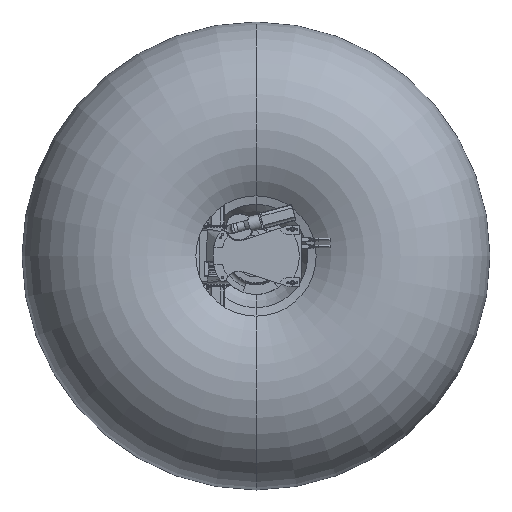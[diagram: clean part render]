
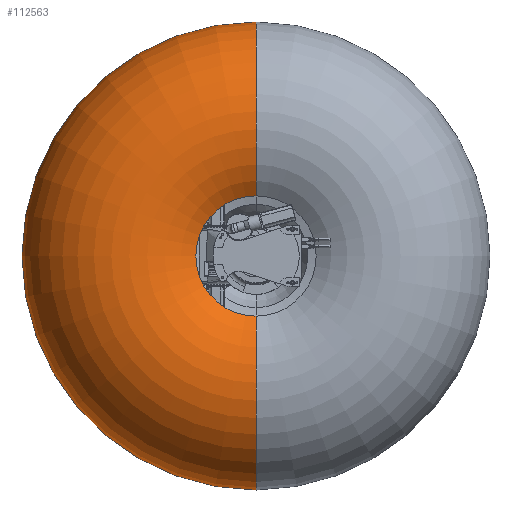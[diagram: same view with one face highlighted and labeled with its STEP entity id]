
A CAD part, front view. The second image highlights one B-rep face of the part: STEP entity #112563.
In plain terms, the highlighted toroidal (fillet/blend) face has major radius 1474.22 mm and minor radius 1230.66 mm.
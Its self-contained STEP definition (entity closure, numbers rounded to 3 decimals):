
#40637 = CARTESIAN_POINT ( 'NONE',  ( 0., 459.142, 695.091 ) ) ;
#40684 = DIRECTION ( 'NONE',  ( 0., 0., 1. ) ) ;
#40685 = DIRECTION ( 'NONE',  ( -1., 0., 0. ) ) ;
#40686 = CARTESIAN_POINT ( 'NONE',  ( 0., 1411.76, -1474.222 ) ) ;
#40687 = AXIS2_PLACEMENT_3D ( 'NONE', #40686, #40685, #40684 ) ;
#40688 = CIRCLE ( 'NONE', #40687, 1230.66 ) ;
#40689 = CARTESIAN_POINT ( 'NONE',  ( 0., 459.142, -695.091 ) ) ;
#40832 = CIRCLE ( 'NONE', #40901, 695.091 ) ;
#40898 = DIRECTION ( 'NONE',  ( 0., 0., -1. ) ) ;
#40899 = DIRECTION ( 'NONE',  ( 0., -1., 0. ) ) ;
#40900 = CARTESIAN_POINT ( 'NONE',  ( 0., 459.142, 0. ) ) ;
#40901 = AXIS2_PLACEMENT_3D ( 'NONE', #40900, #40899, #40898 ) ;
#40948 = DIRECTION ( 'NONE',  ( 0., 0., -1. ) ) ;
#40949 = DIRECTION ( 'NONE',  ( 1., 0., 0. ) ) ;
#40950 = CARTESIAN_POINT ( 'NONE',  ( 0., 1411.76, 1474.222 ) ) ;
#40951 = AXIS2_PLACEMENT_3D ( 'NONE', #40950, #40949, #40948 ) ;
#40952 = CIRCLE ( 'NONE', #40951, 1230.66 ) ;
#40953 = CARTESIAN_POINT ( 'NONE',  ( 0., 1341.365, 2702.867 ) ) ;
#40954 = CARTESIAN_POINT ( 'NONE',  ( 0., 1341.365, -2702.867 ) ) ;
#40965 = FACE_OUTER_BOUND ( 'NONE', #112564, .T. ) ;
#40966 = DIRECTION ( 'NONE',  ( 0., 0., -1. ) ) ;
#40967 = DIRECTION ( 'NONE',  ( 0., -1., 0. ) ) ;
#40968 = CARTESIAN_POINT ( 'NONE',  ( 0., 1341.365, 0. ) ) ;
#40969 = AXIS2_PLACEMENT_3D ( 'NONE', #40968, #40967, #40966 ) ;
#40970 = CIRCLE ( 'NONE', #40969, 2702.867 ) ;
#41016 = DIRECTION ( 'NONE',  ( 0., 0., -1. ) ) ;
#41017 = DIRECTION ( 'NONE',  ( 0., -1., 0. ) ) ;
#41018 = CARTESIAN_POINT ( 'NONE',  ( 0., 1411.76, 0. ) ) ;
#41019 = AXIS2_PLACEMENT_3D ( 'NONE', #41018, #41017, #41016 ) ;
#41020 = TOROIDAL_SURFACE ( 'NONE', #41019, 1474.222, 1230.66 ) ;
#112465 = VERTEX_POINT ( 'NONE', #40637 ) ;
#112468 = VERTEX_POINT ( 'NONE', #40689 ) ;
#112470 = EDGE_CURVE ( 'NONE', #112544, #112468, #40688, .T. ) ;
#112519 = EDGE_CURVE ( 'NONE', #112465, #112468, #40832, .T. ) ;
#112544 = VERTEX_POINT ( 'NONE', #40954 ) ;
#112545 = VERTEX_POINT ( 'NONE', #40953 ) ;
#112547 = EDGE_CURVE ( 'NONE', #112545, #112465, #40952, .T. ) ;
#112562 = EDGE_CURVE ( 'NONE', #112545, #112544, #40970, .T. ) ;
#112563 = ADVANCED_FACE ( 'NONE', ( #40965 ), #41020, .T. ) ;
#112564 = EDGE_LOOP ( 'NONE', ( #112565, #112566, #112567, #112568 ) ) ;
#112565 = ORIENTED_EDGE ( 'NONE', *, *, #112547, .F. ) ;
#112566 = ORIENTED_EDGE ( 'NONE', *, *, #112562, .T. ) ;
#112567 = ORIENTED_EDGE ( 'NONE', *, *, #112470, .T. ) ;
#112568 = ORIENTED_EDGE ( 'NONE', *, *, #112519, .F. ) ;
